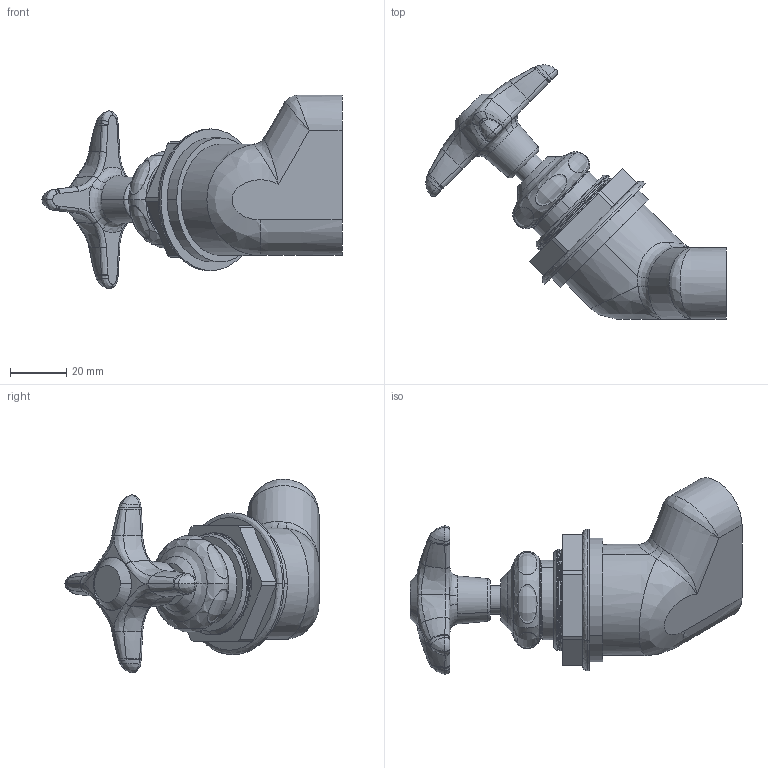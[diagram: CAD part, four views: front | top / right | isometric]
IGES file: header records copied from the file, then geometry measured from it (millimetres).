
Start section:  PTC IGES file: LRV-W1-A1A.igs
Global section: file name: LRV-W1-A1A.igs; native system: Creo Parametric by PTC Inc.; preprocessor: 2014500; author: usch_engrender; organization: Unknown; date: 20160209.103153; units: inch
Bounding box: 107.03 x 90.6 x 69.01 mm (x, y, z)
Surface area: 28287.4 mm2 (no closed solid volume)
Topology: 0 solids, 16 shells, 228 faces, 549 edges, 337 vertices
Faces by surface type: bspline 163, revolution 65
